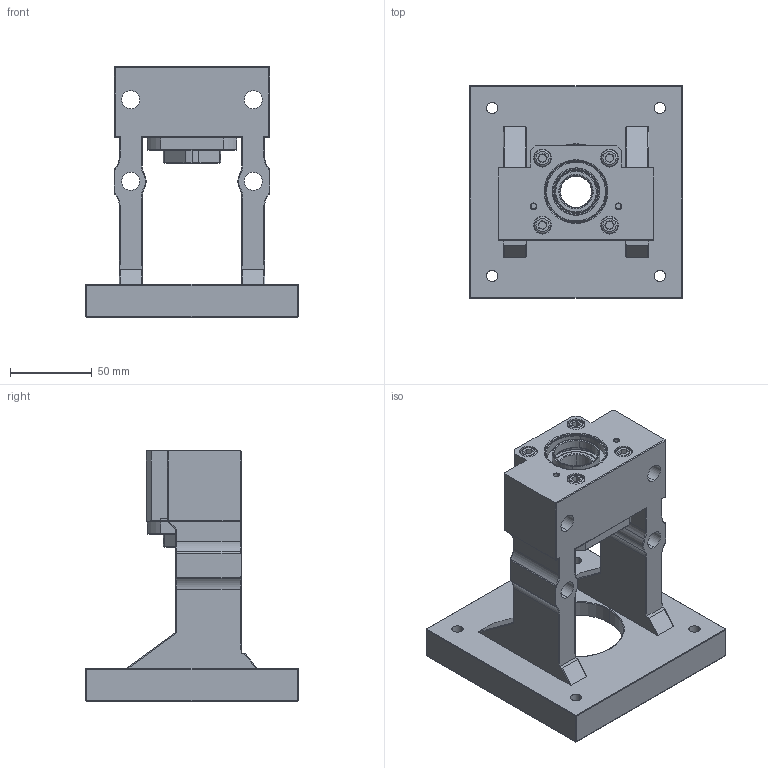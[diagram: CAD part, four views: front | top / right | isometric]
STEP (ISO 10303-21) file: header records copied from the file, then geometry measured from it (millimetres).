
FILE_DESCRIPTION (( 'STEP AP203' ), '1' );
FILE_NAME ('MBCF20-G.STEP', '2017-12-28T07:28:47', ( '' ), ( '' ), 'SwSTEP 2.0', 'SolidWorks 2017', '' );
FILE_SCHEMA (( 'CONFIG_CONTROL_DESIGN' ));
Length unit declared in the file: millimetre
Products named in the file (1): MBCF20-G
Bounding box: 130 x 130 x 153 mm (x, y, z)
Surface area: 107925 mm2 (no closed solid volume)
Topology: 0 solids, 19 shells, 391 faces, 980 edges, 603 vertices
Faces by surface type: cylinder 159, plane 110, torus 56, cone 52, sphere 10, bspline 4
Entity records: 12135 total; most frequent: CARTESIAN_POINT 2683, DIRECTION 2101, ORIENTED_EDGE 1805, EDGE_CURVE 970, AXIS2_PLACEMENT_3D 837, VERTEX_POINT 603, EDGE_LOOP 451, CIRCLE 449
